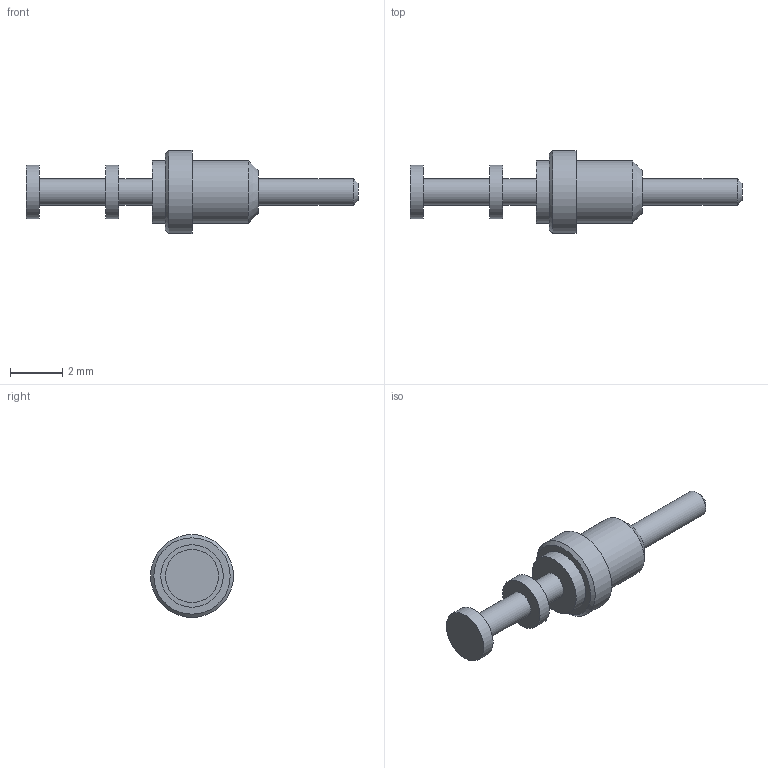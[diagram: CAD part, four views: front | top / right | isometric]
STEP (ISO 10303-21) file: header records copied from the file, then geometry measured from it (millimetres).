
FILE_DESCRIPTION(/* description */ (''),/* implementation_level */ '2;1');
FILE_NAME(/* name */ '\\Snap1\dwgs\Customer 3D Models\571\571-4155-01 Customer model.stp',/* time_stamp */ '2017-01-06T09:56:36+00:00',/* author */ ('paulk'),/* organization */ (''),/* preprocessor_version */ 'ST-DEVELOPER v15.2',/* originating_system */ 'Autodesk Inventor 2014',/* authorisation */ '');
FILE_SCHEMA (('CONFIG_CONTROL_DESIGN'));
Length unit declared in the file: millimetre
Products named in the file (1): 571-4155-01 Customer model
Bounding box: 12.7 x 3.17 x 3.17 mm (x, y, z)
Volume: 30.6 mm3; surface area: 86.4 mm2
Topology: 1 solids, 1 shells, 20 faces, 31 edges, 20 vertices
Faces by surface type: plane 9, cylinder 8, cone 3
Full cylindrical faces by diameter (mm): 1.016 x3, 2.032 x2, 2.388 x2, 3.175 x1
Entity records: 449 total; most frequent: DIRECTION 80, CARTESIAN_POINT 59, AXIS2_PLACEMENT_3D 40, EDGE_LOOP 38, ORIENTED_EDGE 38, FACE_BOUND 23, STYLED_ITEM 21, ADVANCED_FACE 20
